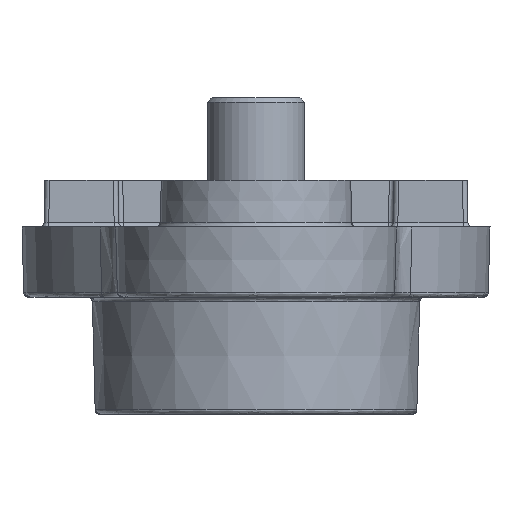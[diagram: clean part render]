
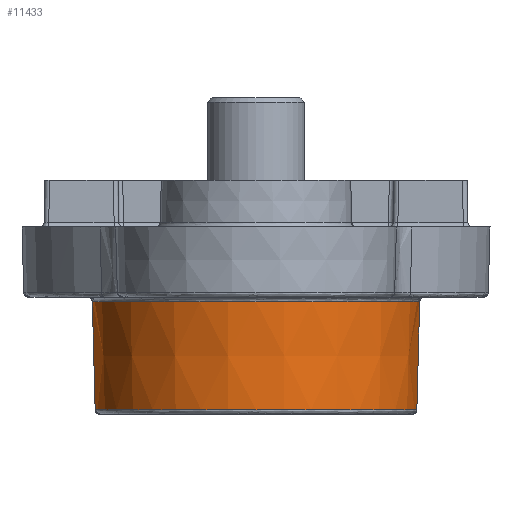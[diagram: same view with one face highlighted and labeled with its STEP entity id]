
A CAD part, left-side view. The second image highlights one B-rep face of the part: STEP entity #11433.
In plain terms, the highlighted conical face has half-angle 1.5 degrees and reference radius 3.497 mm.
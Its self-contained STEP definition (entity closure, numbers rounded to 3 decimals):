
#74 = EDGE_CURVE ( 'NONE', #6003, #6893, #193, .T. ) ;
#193 = CIRCLE ( 'NONE', #1763, 3.497 ) ;
#453 = CARTESIAN_POINT ( 'NONE',  ( 0., 1.597, 0. ) ) ;
#488 = AXIS2_PLACEMENT_3D ( 'NONE', #1347, #3518, #7213 ) ;
#1166 = EDGE_CURVE ( 'NONE', #7201, #5207, #11732, .T. ) ;
#1347 = CARTESIAN_POINT ( 'NONE',  ( 0., 1.597, 0. ) ) ;
#1440 = EDGE_CURVE ( 'NONE', #7201, #6893, #11675, .T. ) ;
#1763 = AXIS2_PLACEMENT_3D ( 'NONE', #453, #4171, #9805 ) ;
#2219 = EDGE_CURVE ( 'NONE', #5207, #6003, #9993, .T. ) ;
#2475 = CARTESIAN_POINT ( 'NONE',  ( 0., -499000., -13070.314 ) ) ;
#2727 = DIRECTION ( 'NONE',  ( 0., 0., -1. ) ) ;
#2797 = EDGE_LOOP ( 'NONE', ( #5508, #6596, #8041, #4036 ) ) ;
#3501 = CARTESIAN_POINT ( 'NONE',  ( 0., 1.5, 3.5 ) ) ;
#3518 = DIRECTION ( 'NONE',  ( 0., -1., 0. ) ) ;
#4036 = ORIENTED_EDGE ( 'NONE', *, *, #1166, .T. ) ;
#4171 = DIRECTION ( 'NONE',  ( 0., 1., 0. ) ) ;
#4214 = VECTOR ( 'NONE', #4657, 1000. ) ;
#4379 = CARTESIAN_POINT ( 'NONE',  ( 0., 1.597, -3.497 ) ) ;
#4657 = DIRECTION ( 'NONE',  ( 0., -1., -0.026 ) ) ;
#4687 = CARTESIAN_POINT ( 'NONE',  ( 0., 3.903, -3.437 ) ) ;
#5207 = VERTEX_POINT ( 'NONE', #4687 ) ;
#5425 = VECTOR ( 'NONE', #11786, 1000. ) ;
#5508 = ORIENTED_EDGE ( 'NONE', *, *, #2219, .T. ) ;
#5752 = CONICAL_SURFACE ( 'NONE', #488, 3.497, 0.026 ) ;
#5912 = FACE_OUTER_BOUND ( 'NONE', #2797, .T. ) ;
#6003 = VERTEX_POINT ( 'NONE', #4379 ) ;
#6334 = CARTESIAN_POINT ( 'NONE',  ( 0., 3.903, 3.437 ) ) ;
#6488 = AXIS2_PLACEMENT_3D ( 'NONE', #6527, #11206, #2727 ) ;
#6527 = CARTESIAN_POINT ( 'NONE',  ( 0., 3.903, 0. ) ) ;
#6596 = ORIENTED_EDGE ( 'NONE', *, *, #74, .T. ) ;
#6893 = VERTEX_POINT ( 'NONE', #8259 ) ;
#7201 = VERTEX_POINT ( 'NONE', #6334 ) ;
#7213 = DIRECTION ( 'NONE',  ( 0., 0., -1. ) ) ;
#8041 = ORIENTED_EDGE ( 'NONE', *, *, #1440, .F. ) ;
#8259 = CARTESIAN_POINT ( 'NONE',  ( 0., 1.597, 3.497 ) ) ;
#9805 = DIRECTION ( 'NONE',  ( 0., 0., -1. ) ) ;
#9993 = LINE ( 'NONE', #2475, #4214 ) ;
#11206 = DIRECTION ( 'NONE',  ( 0., -1., 0. ) ) ;
#11433 = ADVANCED_FACE ( 'NONE', ( #5912 ), #5752, .T. ) ;
#11675 = LINE ( 'NONE', #3501, #5425 ) ;
#11732 = CIRCLE ( 'NONE', #6488, 3.437 ) ;
#11786 = DIRECTION ( 'NONE',  ( 0., -1., 0.026 ) ) ;
